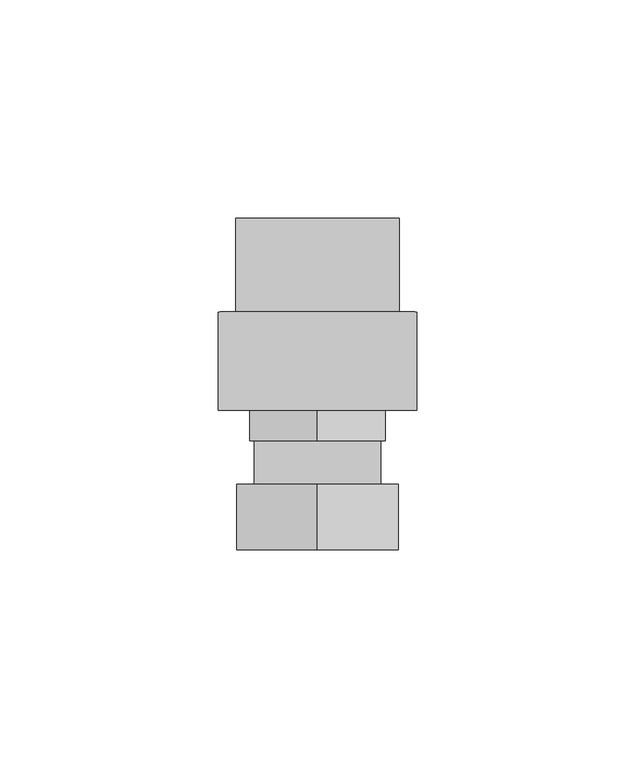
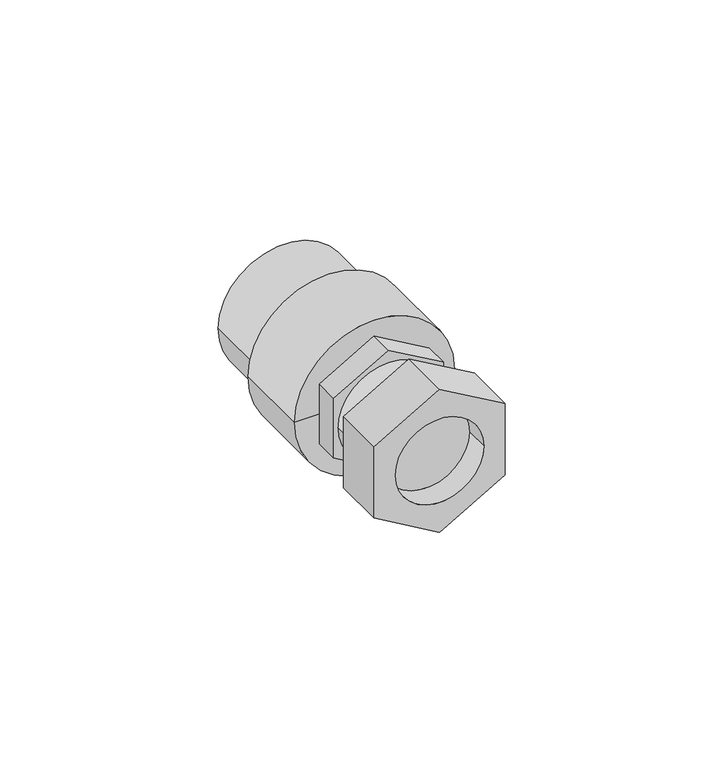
"""IFC4 building model written with IfcOpenShell, lengths in millimetres: pipe fitting geometry, NIRON RED termofusion roscado racor loco : Estándar."""

from ifc_helpers import new_model, si_unit, point, frame, origin, origin_2d, place, context, project, spatial, polyline, circle_curve, trimmed, segment, composite_curve, outline, extrude, source, transform, mapped, element, save
from ifc_brep_helpers import plane_surface, cylinder_surface, revolved_surface, advanced_brep


def pipe_fitting_76d30c63(model_context):
    return source(origin(), model_context, "Body", "SolidModel", [
        advanced_brep(
        [(18.5, 9.0, -10.68098), (18.5, 9.0, 10.68098), (0.0, 9.0, 21.36196), (-18.5, 9.0, 10.68098), (-18.5, 9.0, -10.68098), (0.0, 9.0, -21.36196), (12.5, 9.0, 0.0), (-12.5, 9.0, 0.0), (18.5, 24.0, -10.68098), (0.0, 24.0, -21.36196), (-18.5, 24.0, -10.68098), (-18.5, 24.0, 10.68098), (0.0, 24.0, 21.36196), (18.5, 24.0, 10.68098), (-12.5, 16.0570795, 0.0), (12.5, 16.0570795, 0.0)],
        [
            (0, 1),
            (1, 2),
            (2, 3),
            (3, 4),
            (4, 5),
            (5, 0),
            (6, 7, circle_curve(frame((0.0, 9.0, 0.0), z_axis=(0.0, 1.0, 0.0), x_axis=(1.0, 0.0, 0.0)), 12.5)),
            (7, 6, circle_curve(frame((0.0, 9.0, 0.0), z_axis=(0.0, 1.0, 0.0), x_axis=(1.0, 0.0, 0.0)), 12.5)),
            (8, 9),
            (9, 10),
            (10, 11),
            (11, 12),
            (12, 13),
            (13, 8),
            (0, 8),
            (13, 1),
            (12, 2),
            (11, 3),
            (10, 4),
            (9, 5),
            (14, 15, circle_curve(frame((0.0, 16.0570795, 0.0), z_axis=(0.0, -1.0, 0.0), x_axis=(1.0, 0.0, 0.0)), 12.5)),
            (15, 14, circle_curve(frame((0.0, 16.0570795, 0.0), z_axis=(0.0, -1.0, 0.0), x_axis=(1.0, 0.0, 0.0)), 12.5)),
            (14, 7),
            (6, 15),
        ],
        [
            plane_surface(frame((0.0, 9.0, 0.0), z_axis=(0.0, -1.0, 0.0), x_axis=(0.0, 0.0, 1.0))),
            plane_surface(frame((0.0, 24.0, 0.0), z_axis=(0.0, 1.0, 0.0), x_axis=(0.0, 0.0, 1.0))),
            plane_surface(frame((18.5, 9.0, -10.68098), z_axis=(1.0, 0.0, 0.0), x_axis=(0.0, 1.0, 0.0))),
            plane_surface(frame((18.5, 9.0, 10.68098), z_axis=(0.49999999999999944, 0.0, 0.866025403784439), x_axis=(0.0, 1.0, 0.0))),
            plane_surface(frame((0.0, 9.0, 21.36196), z_axis=(-0.4999999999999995, 0.0, 0.8660254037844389), x_axis=(0.0, 1.0, 0.0))),
            plane_surface(frame((-18.5, 9.0, 10.68098), z_axis=(-1.0, 0.0, 0.0), x_axis=(0.0, 1.0, 0.0))),
            plane_surface(frame((-18.5, 9.0, -10.68098), z_axis=(-0.4999999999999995, 0.0, -0.866025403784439), x_axis=(0.0, 1.0, 0.0))),
            plane_surface(frame((0.0, 9.0, -21.36196), z_axis=(0.4999999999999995, 0.0, -0.866025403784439), x_axis=(0.0, 1.0, 0.0))),
            plane_surface(frame((12.5, 16.0570795, 0.0), z_axis=(0.0, -1.0, 0.0), x_axis=(0.0, 0.0, -1.0))),
            revolved_surface(polyline([(12.5, 9.0, 0.0), (12.5, 16.0570795, 0.0)]), (0.0, 16.0570795, 0.0), (0.0, -1.0, 0.0)),
        ],
        [
            (0, [[1, 2, 3, 4, 5, 6], [7, 8]]),
            (1, [[9, 10, 11, 12, 13, 14]]),
            (2, [[-1, 15, -14, 16]]),
            (3, [[-2, -16, -13, 17]]),
            (4, [[-3, -17, -12, 18]]),
            (5, [[-4, -18, -11, 19]]),
            (6, [[-5, -19, -10, 20]]),
            (7, [[-6, -20, -9, -15]]),
            (8, [[21, 22]]),
            (9, [[-21, 23, -7, 24]]),
            (9, [[-22, -24, -8, -23]]),
        ],
    ),
        extrude(outline(polyline([(-8.9489292, 15.5), (8.9489292, 15.5), (17.8978583, 0.0), (8.9489292, -15.5), (-8.9489292, -15.5), (-17.8978583, 0.0), (-8.9489292, 15.5)])), frame((0.0, 34.0, 0.0), z_axis=(0.0, 1.0, 0.0), x_axis=(0.0, 0.0, 1.0)), (0.0, 0.0, 1.0), 7.0),
        extrude(outline(composite_curve([segment(trimmed(circle_curve(origin_2d(), 14.5), [point((0.0, -14.5))], [point((0.0, 14.5))], False, "CARTESIAN"), True, "CONTINUOUS"), segment(trimmed(circle_curve(origin_2d(), 14.5), [point((0.0, 14.5))], [point((0.0, -14.5))], False, "CARTESIAN"), True, "CONTINUOUS")], self_intersect=False)), frame((0.0, 24.0, 0.0), z_axis=(0.0, 1.0, 0.0), x_axis=(0.0, 0.0, 1.0)), (0.0, 0.0, 1.0), 10.0),
        advanced_brep(
        [(18.75, 85.0, 0.0), (-18.75, 85.0, 0.0), (0.0, 85.0, 0.0), (22.75, 41.0, 0.0), (-22.75, 41.0, 0.0), (-22.75, 63.5, 0.0), (22.75, 63.5, 0.0), (0.0, 41.0, 0.0), (18.75, 63.5, 0.0), (-18.75, 63.5, 0.0)],
        [
            (0, 1, circle_curve(frame((0.0, 85.0, 0.0), z_axis=(0.0, 1.0, 0.0), x_axis=(-1.0, 0.0, 0.0)), 18.75)),
            (1, 2),
            (2, 0),
            (1, 0, circle_curve(frame((0.0, 85.0, 0.0), z_axis=(0.0, 1.0, 0.0), x_axis=(-1.0, 0.0, 0.0)), 18.75)),
            (3, 4, circle_curve(frame((0.0, 41.0, 0.0), z_axis=(0.0, 1.0, 0.0), x_axis=(-1.0, 0.0, 0.0)), 22.75)),
            (4, 5),
            (5, 6, circle_curve(frame((0.0, 63.5, 0.0), z_axis=(0.0, -1.0, 0.0), x_axis=(-1.0, 0.0, 0.0)), 22.75)),
            (6, 3),
            (4, 3, circle_curve(frame((0.0, 41.0, 0.0), z_axis=(0.0, 1.0, 0.0), x_axis=(-1.0, 0.0, 0.0)), 22.75)),
            (6, 5, circle_curve(frame((0.0, 63.5, 0.0), z_axis=(0.0, -1.0, 0.0), x_axis=(-1.0, 0.0, 0.0)), 22.75)),
            (7, 4),
            (3, 7),
            (8, 9, circle_curve(frame((0.0, 63.5, 0.0), z_axis=(0.0, 1.0, 0.0), x_axis=(-1.0, 0.0, 0.0)), 18.75)),
            (9, 1),
            (0, 8),
            (9, 8, circle_curve(frame((0.0, 63.5, 0.0), z_axis=(0.0, 1.0, 0.0), x_axis=(-1.0, 0.0, 0.0)), 18.75)),
            (5, 9),
            (8, 6),
        ],
        [
            plane_surface(frame((0.0, 85.0, 0.0), z_axis=(0.0, 1.0, 0.0), x_axis=(-1.0, 0.0, 0.0))),
            cylinder_surface(frame((0.0, 95.0, 0.0), z_axis=(0.0, -1.0, 0.0), x_axis=(-1.0, 0.0, 0.0)), 22.75),
            plane_surface(frame((0.0, 41.0, 0.0), z_axis=(0.0, -1.0, 0.0), x_axis=(-1.0, 0.0, 0.0))),
            cylinder_surface(frame((0.0, 95.0, 0.0), z_axis=(0.0, -1.0, 0.0), x_axis=(-1.0, 0.0, 0.0)), 18.75),
            plane_surface(frame((0.0, 63.5, 0.0), z_axis=(0.0, 1.0, 0.0), x_axis=(-1.0, 0.0, 0.0))),
        ],
        [
            (0, [[1, 2, 3]]),
            (0, [[4, -3, -2]]),
            (1, [[5, 6, 7, 8]]),
            (1, [[9, -8, 10, -6]]),
            (2, [[11, -5, 12]]),
            (2, [[-12, -9, -11]]),
            (3, [[13, 14, -1, 15]]),
            (3, [[16, -15, -4, -14]]),
            (4, [[-7, 17, -13, 18]]),
            (4, [[-10, -18, -16, -17]]),
        ],
    ),
    ])


if __name__ == "__main__":
    model = new_model("IFC4")
    model_context = context("Model", 3, world=origin())
    ifc_project = project(units=[si_unit("LENGTHUNIT", "METRE", prefix="MILLI")], contexts=[model_context])
    site = spatial("IfcSite", under=ifc_project)
    building = spatial("IfcBuilding", under=site)
    placement = place(None, origin())
    pipe_fitting_shape = pipe_fitting_76d30c63(model_context)
    element("IfcPipeFitting", 1, ObjectType="NIRON RED termofusion roscado racor loco : Estándar", at=placement, inside=building, context=model_context, shape_type="MappedRepresentation", body=[
        mapped(pipe_fitting_shape, transform((0.0, 0.0, 0.0), x_axis=(1.0, 0.0, 0.0), y_axis=(0.0, 1.0, 0.0), z_axis=(0.0, 0.0, 1.0))),
    ])
    save(model, "model.ifc")
